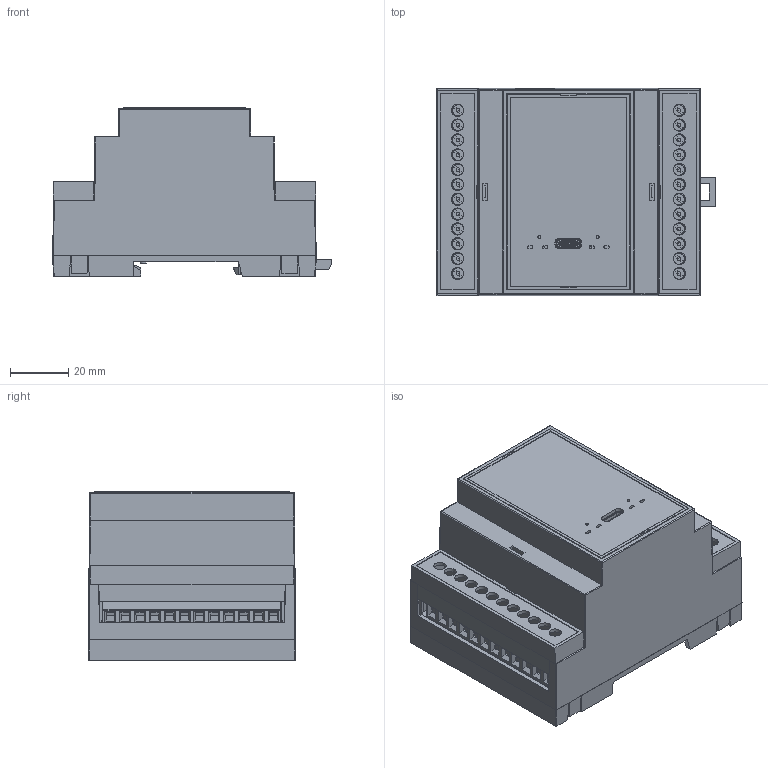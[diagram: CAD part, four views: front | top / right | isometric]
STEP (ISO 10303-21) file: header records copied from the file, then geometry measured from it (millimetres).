
FILE_DESCRIPTION(/* description */ ('','CAx-IF Rec.Pracs.---Representation and Presentation of Product Manufacturing Information (PMI)---4.0---2014-10-13'),/* implementation_level */ '2;1');
FILE_NAME(/* name */ 'EQSP32C - Shared CAD - Rev051525 v1.step',/* time_stamp */ '2025-05-15T14:54:48+03:00',/* author */ (''),/* organization */ (''),/* preprocessor_version */ 'ST-DEVELOPER v20',/* originating_system */ 'Autodesk Translation Framework v13.20.0.188',/* authorisation */ '');
FILE_SCHEMA (('AP242_MANAGED_MODEL_BASED_3D_ENGINEERING_MIM_LF { 1 0 10303 442 1 1 4 }'));
Products named in the file (25): EQSP32 - Shared CAD - Rev051525; Complete; PCIeBoard_v1.0; J1e; 5809249936; EQSP32_board_v1.0; Board; Open CASCADE STEP translator 6.8 1.1.1; J1; female_header_a-bl254-da-g10d; J2; 5857085904; mkdsn_1.5-12-5.08; J3; 5857085824; mkdsn_1.5-12-5.08 (1); Case; Base; Body; Main body; Cover; Extras; DMB4770mtgclip(DMB4772); DMB4772guard1; DMB4772guard2
Assembly tree (24 placements, depth 6):
  EQSP32 - Shared CAD - Rev051525
    Complete
      PCIeBoard_v1.0
        J1e
          5809249936
      EQSP32_board_v1.0
        Board
          Open CASCADE STEP translator 6.8 1.1.1
        J1
          female_header_a-bl254-da-g10d
        J2
          5857085904
            mkdsn_1.5-12-5.08
        J3
          5857085824
            mkdsn_1.5-12-5.08 (1)
      Case
        Base
        Body
          Main body
        Cover
        Extras
          DMB4770mtgclip(DMB4772)
          DMB4772guard1
          DMB4772guard2
Bounding box: 95.36 x 71 x 57.7 mm (x, y, z)
Volume: 62121.5 mm3; surface area: 86967.5 mm2
Topology: 11 solids, 11 shells, 2968 faces, 7968 edges, 5095 vertices
Faces by surface type: plane 2307, cylinder 561, cone 58, sphere 32, bspline 10
Full cylindrical faces by diameter (mm): 0.457 x2, 0.5 x2, 0.78 x36, 1 x2, 1.07 x10, 1.3 x48, 1.5 x4, 2.4 x2, 3.2 x4, 3.8 x24, 3.83 x24, 4.2 x24
Entity records: 95289 total; most frequent: CARTESIAN_POINT 17328, ORIENTED_EDGE 15912, DIRECTION 15397, EDGE_CURVE 7956, LINE 6369, VECTOR 6369, VERTEX_POINT 5095, AXIS2_PLACEMENT_3D 4514
